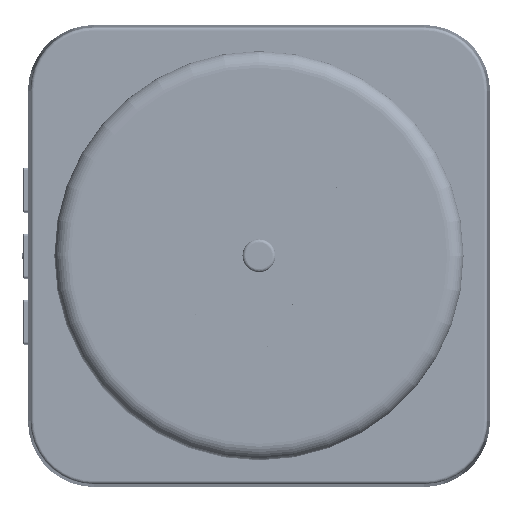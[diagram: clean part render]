
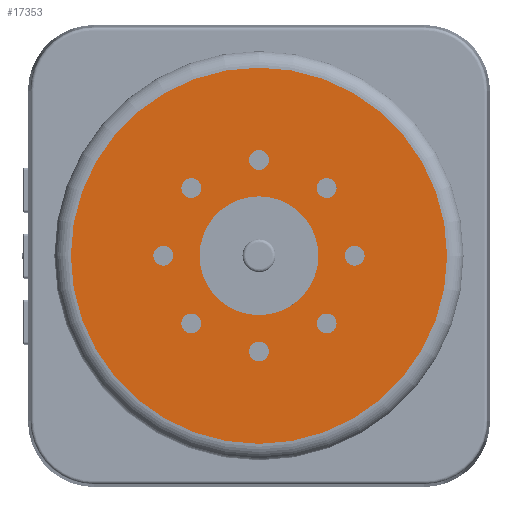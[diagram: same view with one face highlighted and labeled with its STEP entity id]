
A CAD part, top view. The second image highlights one B-rep face of the part: STEP entity #17353.
In plain terms, the highlighted planar face has unit normal (0, 0, 1) as drawn and (0, -1, 0) by its records, which use the part's own axes.
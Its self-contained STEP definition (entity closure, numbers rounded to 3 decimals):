
#144=FACE_BOUND('',#1849,.T.);
#145=FACE_BOUND('',#1850,.T.);
#146=FACE_BOUND('',#1851,.T.);
#147=FACE_BOUND('',#1852,.T.);
#148=FACE_BOUND('',#1853,.T.);
#149=FACE_BOUND('',#1854,.T.);
#150=FACE_BOUND('',#1855,.T.);
#151=FACE_BOUND('',#1856,.T.);
#152=FACE_BOUND('',#1857,.T.);
#296=PLANE('',#18457);
#856=FACE_OUTER_BOUND('',#1848,.T.);
#1848=EDGE_LOOP('',(#12200,#12201));
#1849=EDGE_LOOP('',(#12202,#12203));
#1850=EDGE_LOOP('',(#12204,#12205));
#1851=EDGE_LOOP('',(#12206,#12207));
#1852=EDGE_LOOP('',(#12208,#12209));
#1853=EDGE_LOOP('',(#12210,#12211));
#1854=EDGE_LOOP('',(#12212,#12213));
#1855=EDGE_LOOP('',(#12214,#12215));
#1856=EDGE_LOOP('',(#12216,#12217));
#1857=EDGE_LOOP('',(#12218,#12219));
#2715=CIRCLE('',#18458,28.5);
#2716=CIRCLE('',#18459,28.5);
#2717=CIRCLE('',#18460,1.5);
#2718=CIRCLE('',#18461,1.5);
#2719=CIRCLE('',#18462,1.5);
#2720=CIRCLE('',#18463,1.5);
#2721=CIRCLE('',#18464,1.5);
#2722=CIRCLE('',#18465,1.5);
#2723=CIRCLE('',#18466,1.5);
#2724=CIRCLE('',#18467,1.5);
#2725=CIRCLE('',#18468,1.5);
#2726=CIRCLE('',#18469,1.5);
#2727=CIRCLE('',#18470,1.5);
#2728=CIRCLE('',#18471,1.5);
#2729=CIRCLE('',#18472,1.5);
#2730=CIRCLE('',#18473,1.5);
#2731=CIRCLE('',#18474,1.5);
#2732=CIRCLE('',#18475,1.5);
#2733=CIRCLE('',#18476,9.);
#2734=CIRCLE('',#18477,9.);
#7165=VERTEX_POINT('',#110649);
#7166=VERTEX_POINT('',#110650);
#7167=VERTEX_POINT('',#110653);
#7168=VERTEX_POINT('',#110654);
#7169=VERTEX_POINT('',#110657);
#7170=VERTEX_POINT('',#110658);
#7171=VERTEX_POINT('',#110661);
#7172=VERTEX_POINT('',#110662);
#7173=VERTEX_POINT('',#110665);
#7174=VERTEX_POINT('',#110666);
#7175=VERTEX_POINT('',#110669);
#7176=VERTEX_POINT('',#110670);
#7177=VERTEX_POINT('',#110673);
#7178=VERTEX_POINT('',#110674);
#7179=VERTEX_POINT('',#110677);
#7180=VERTEX_POINT('',#110678);
#7181=VERTEX_POINT('',#110681);
#7182=VERTEX_POINT('',#110682);
#7183=VERTEX_POINT('',#110685);
#7184=VERTEX_POINT('',#110686);
#9215=EDGE_CURVE('',#7165,#7166,#2715,.T.);
#9216=EDGE_CURVE('',#7166,#7165,#2716,.T.);
#9217=EDGE_CURVE('',#7167,#7168,#2717,.T.);
#9218=EDGE_CURVE('',#7168,#7167,#2718,.T.);
#9219=EDGE_CURVE('',#7169,#7170,#2719,.T.);
#9220=EDGE_CURVE('',#7170,#7169,#2720,.T.);
#9221=EDGE_CURVE('',#7171,#7172,#2721,.T.);
#9222=EDGE_CURVE('',#7172,#7171,#2722,.T.);
#9223=EDGE_CURVE('',#7173,#7174,#2723,.T.);
#9224=EDGE_CURVE('',#7174,#7173,#2724,.T.);
#9225=EDGE_CURVE('',#7175,#7176,#2725,.T.);
#9226=EDGE_CURVE('',#7176,#7175,#2726,.T.);
#9227=EDGE_CURVE('',#7177,#7178,#2727,.T.);
#9228=EDGE_CURVE('',#7178,#7177,#2728,.T.);
#9229=EDGE_CURVE('',#7179,#7180,#2729,.T.);
#9230=EDGE_CURVE('',#7180,#7179,#2730,.T.);
#9231=EDGE_CURVE('',#7181,#7182,#2731,.T.);
#9232=EDGE_CURVE('',#7182,#7181,#2732,.T.);
#9233=EDGE_CURVE('',#7183,#7184,#2733,.T.);
#9234=EDGE_CURVE('',#7184,#7183,#2734,.T.);
#12200=ORIENTED_EDGE('',*,*,#9215,.F.);
#12201=ORIENTED_EDGE('',*,*,#9216,.F.);
#12202=ORIENTED_EDGE('',*,*,#9217,.T.);
#12203=ORIENTED_EDGE('',*,*,#9218,.T.);
#12204=ORIENTED_EDGE('',*,*,#9219,.T.);
#12205=ORIENTED_EDGE('',*,*,#9220,.T.);
#12206=ORIENTED_EDGE('',*,*,#9221,.T.);
#12207=ORIENTED_EDGE('',*,*,#9222,.T.);
#12208=ORIENTED_EDGE('',*,*,#9223,.T.);
#12209=ORIENTED_EDGE('',*,*,#9224,.T.);
#12210=ORIENTED_EDGE('',*,*,#9225,.T.);
#12211=ORIENTED_EDGE('',*,*,#9226,.T.);
#12212=ORIENTED_EDGE('',*,*,#9227,.T.);
#12213=ORIENTED_EDGE('',*,*,#9228,.T.);
#12214=ORIENTED_EDGE('',*,*,#9229,.T.);
#12215=ORIENTED_EDGE('',*,*,#9230,.T.);
#12216=ORIENTED_EDGE('',*,*,#9231,.T.);
#12217=ORIENTED_EDGE('',*,*,#9232,.T.);
#12218=ORIENTED_EDGE('',*,*,#9233,.F.);
#12219=ORIENTED_EDGE('',*,*,#9234,.F.);
#17353=ADVANCED_FACE('',(#856,#144,#145,#146,#147,#148,#149,#150,#151,#152),
#296,.T.);
#18457=AXIS2_PLACEMENT_3D('',#110648,#20716,#20717);
#18458=AXIS2_PLACEMENT_3D('',#110651,#20718,#20719);
#18459=AXIS2_PLACEMENT_3D('',#110652,#20720,#20721);
#18460=AXIS2_PLACEMENT_3D('',#110655,#20722,#20723);
#18461=AXIS2_PLACEMENT_3D('',#110656,#20724,#20725);
#18462=AXIS2_PLACEMENT_3D('',#110659,#20726,#20727);
#18463=AXIS2_PLACEMENT_3D('',#110660,#20728,#20729);
#18464=AXIS2_PLACEMENT_3D('',#110663,#20730,#20731);
#18465=AXIS2_PLACEMENT_3D('',#110664,#20732,#20733);
#18466=AXIS2_PLACEMENT_3D('',#110667,#20734,#20735);
#18467=AXIS2_PLACEMENT_3D('',#110668,#20736,#20737);
#18468=AXIS2_PLACEMENT_3D('',#110671,#20738,#20739);
#18469=AXIS2_PLACEMENT_3D('',#110672,#20740,#20741);
#18470=AXIS2_PLACEMENT_3D('',#110675,#20742,#20743);
#18471=AXIS2_PLACEMENT_3D('',#110676,#20744,#20745);
#18472=AXIS2_PLACEMENT_3D('',#110679,#20746,#20747);
#18473=AXIS2_PLACEMENT_3D('',#110680,#20748,#20749);
#18474=AXIS2_PLACEMENT_3D('',#110683,#20750,#20751);
#18475=AXIS2_PLACEMENT_3D('',#110684,#20752,#20753);
#18476=AXIS2_PLACEMENT_3D('',#110687,#20754,#20755);
#18477=AXIS2_PLACEMENT_3D('',#110688,#20756,#20757);
#20716=DIRECTION('center_axis',(0.,-1.,0.));
#20717=DIRECTION('ref_axis',(0.,0.,
-1.));
#20718=DIRECTION('center_axis',(0.,1.,0.));
#20719=DIRECTION('ref_axis',(-1.,0.,0.));
#20720=DIRECTION('center_axis',(0.,1.,0.));
#20721=DIRECTION('ref_axis',(-1.,0.,0.));
#20722=DIRECTION('center_axis',(0.,1.,0.));
#20723=DIRECTION('ref_axis',(-0.814,0.,-0.581));
#20724=DIRECTION('center_axis',(0.,1.,0.));
#20725=DIRECTION('ref_axis',(-0.814,0.,-0.581));
#20726=DIRECTION('center_axis',(0.,1.,0.));
#20727=DIRECTION('ref_axis',(-0.986,0.,0.165));
#20728=DIRECTION('center_axis',(0.,1.,0.));
#20729=DIRECTION('ref_axis',(-0.986,0.,0.165));
#20730=DIRECTION('center_axis',(0.,1.,0.));
#20731=DIRECTION('ref_axis',(-0.581,0.,0.814));
#20732=DIRECTION('center_axis',(0.,1.,0.));
#20733=DIRECTION('ref_axis',(-0.581,0.,0.814));
#20734=DIRECTION('center_axis',(0.,1.,0.));
#20735=DIRECTION('ref_axis',(0.165,0.,0.986));
#20736=DIRECTION('center_axis',(0.,1.,0.));
#20737=DIRECTION('ref_axis',(0.165,0.,0.986));
#20738=DIRECTION('center_axis',(0.,1.,0.));
#20739=DIRECTION('ref_axis',(0.814,0.,0.581));
#20740=DIRECTION('center_axis',(0.,1.,0.));
#20741=DIRECTION('ref_axis',(0.814,0.,0.581));
#20742=DIRECTION('center_axis',(0.,1.,0.));
#20743=DIRECTION('ref_axis',(0.986,0.,-0.165));
#20744=DIRECTION('center_axis',(0.,1.,0.));
#20745=DIRECTION('ref_axis',(0.986,0.,-0.165));
#20746=DIRECTION('center_axis',(0.,1.,0.));
#20747=DIRECTION('ref_axis',(0.581,0.,-0.814));
#20748=DIRECTION('center_axis',(0.,1.,0.));
#20749=DIRECTION('ref_axis',(0.581,0.,-0.814));
#20750=DIRECTION('center_axis',(0.,1.,0.));
#20751=DIRECTION('ref_axis',(-0.165,0.,-0.986));
#20752=DIRECTION('center_axis',(0.,1.,0.));
#20753=DIRECTION('ref_axis',(-0.165,0.,-0.986));
#20754=DIRECTION('center_axis',(0.,-1.,0.));
#20755=DIRECTION('ref_axis',(-0.814,0.,0.581));
#20756=DIRECTION('center_axis',(0.,-1.,0.));
#20757=DIRECTION('ref_axis',(-0.814,0.,0.581));
#110648=CARTESIAN_POINT('Origin',(0.,-21.2,28.51));
#110649=CARTESIAN_POINT('',(-28.5,-21.2,0.));
#110650=CARTESIAN_POINT('',(0.,-21.2,-28.5));
#110651=CARTESIAN_POINT('Origin',(0.,-21.2,0.));
#110652=CARTESIAN_POINT('Origin',(0.,-21.2,0.));
#110653=CARTESIAN_POINT('',(8.753,-21.2,10.253));
#110654=CARTESIAN_POINT('',(11.753,-21.2,10.253));
#110655=CARTESIAN_POINT('Origin',(10.253,-21.2,10.253));
#110656=CARTESIAN_POINT('Origin',(10.253,-21.2,10.253));
#110657=CARTESIAN_POINT('',(13.439,-21.2,1.061));
#110658=CARTESIAN_POINT('',(15.561,-21.2,-1.061));
#110659=CARTESIAN_POINT('Origin',(14.5,-21.2,0.));
#110660=CARTESIAN_POINT('Origin',(14.5,-21.2,0.));
#110661=CARTESIAN_POINT('',(10.253,-21.2,-8.753));
#110662=CARTESIAN_POINT('',(10.253,-21.2,-11.753));
#110663=CARTESIAN_POINT('Origin',(10.253,-21.2,-10.253));
#110664=CARTESIAN_POINT('Origin',(10.253,-21.2,-10.253));
#110665=CARTESIAN_POINT('',(1.061,-21.2,-13.439));
#110666=CARTESIAN_POINT('',(-1.061,-21.2,-15.561));
#110667=CARTESIAN_POINT('Origin',(0.,-21.2,-14.5));
#110668=CARTESIAN_POINT('Origin',(0.,-21.2,-14.5));
#110669=CARTESIAN_POINT('',(-8.753,-21.2,-10.253));
#110670=CARTESIAN_POINT('',(-11.753,-21.2,-10.253));
#110671=CARTESIAN_POINT('Origin',(-10.253,-21.2,-10.253));
#110672=CARTESIAN_POINT('Origin',(-10.253,-21.2,-10.253));
#110673=CARTESIAN_POINT('',(-13.439,-21.2,-1.061));
#110674=CARTESIAN_POINT('',(-15.561,-21.2,1.061));
#110675=CARTESIAN_POINT('Origin',(-14.5,-21.2,0.));
#110676=CARTESIAN_POINT('Origin',(-14.5,-21.2,0.));
#110677=CARTESIAN_POINT('',(-10.253,-21.2,8.753));
#110678=CARTESIAN_POINT('',(-10.253,-21.2,11.753));
#110679=CARTESIAN_POINT('Origin',(-10.253,-21.2,10.253));
#110680=CARTESIAN_POINT('Origin',(-10.253,-21.2,10.253));
#110681=CARTESIAN_POINT('',(-1.061,-21.2,13.439));
#110682=CARTESIAN_POINT('',(1.061,-21.2,15.561));
#110683=CARTESIAN_POINT('Origin',(0.,-21.2,14.5));
#110684=CARTESIAN_POINT('Origin',(0.,-21.2,14.5));
#110685=CARTESIAN_POINT('',(-9.,-21.2,0.));
#110686=CARTESIAN_POINT('',(9.,-21.2,0.));
#110687=CARTESIAN_POINT('Origin',(0.,-21.2,0.));
#110688=CARTESIAN_POINT('Origin',(0.,-21.2,0.));
